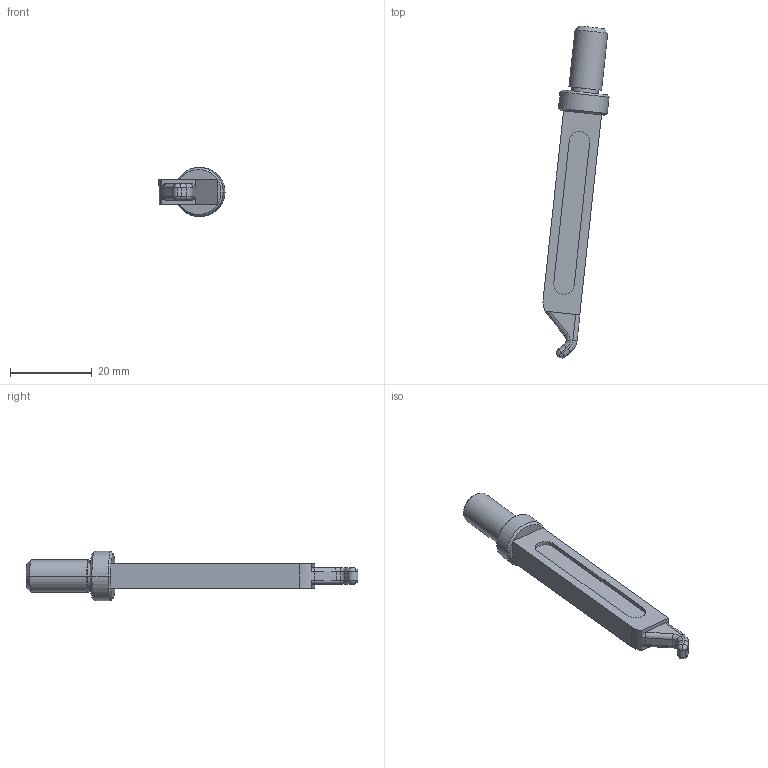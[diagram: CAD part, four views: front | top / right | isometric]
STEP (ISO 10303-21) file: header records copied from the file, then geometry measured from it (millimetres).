
FILE_DESCRIPTION(('CATIA V5 STEP Exchange'),'2;1');
FILE_NAME('D:\姚明阳\1、工装图纸\压气阀工具\Yagan_V1.stp','2023-02-07T03:10:27+00:00',('none'),('none'),'CATIA Version 5 Release 21 GA (IN-10)','CATIA V5 STEP AP214','none');
FILE_SCHEMA(('AUTOMOTIVE_DESIGN { 1 0 10303 214 1 1 1 1 }'));
Length unit declared in the file: millimetre
Products named in the file (1): 3
Bounding box: 16.11 x 81 x 12 mm (x, y, z)
Volume: 3857.5 mm3; surface area: 2622.4 mm2
Topology: 1 solids, 1 shells, 66 faces, 158 edges, 98 vertices
Faces by surface type: cylinder 24, plane 24, torus 8, cone 6, bspline 4
Entity records: 1909 total; most frequent: CARTESIAN_POINT 493, ORIENTED_EDGE 316, DIRECTION 231, EDGE_CURVE 158, AXIS2_PLACEMENT_3D 111, VERTEX_POINT 98, VECTOR 70, EDGE_LOOP 70
